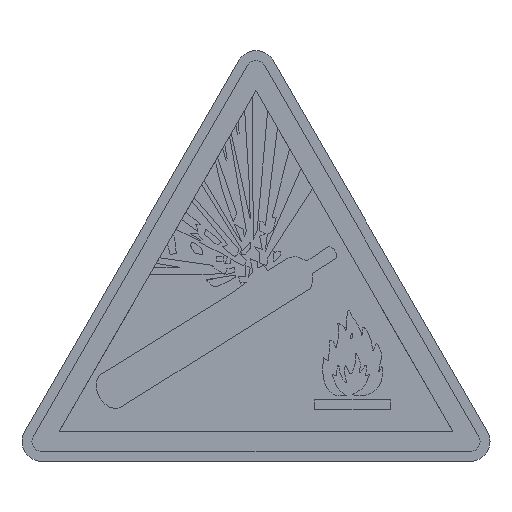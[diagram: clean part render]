
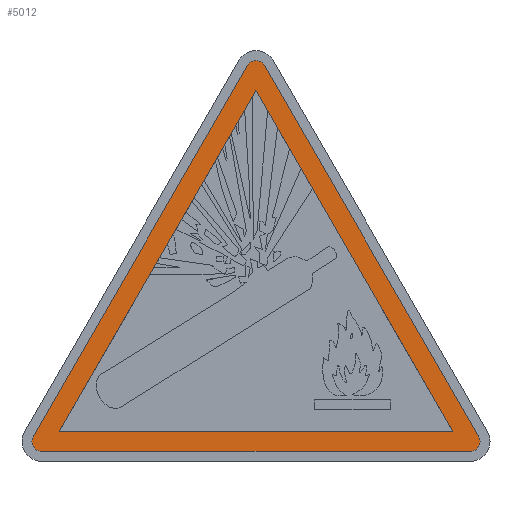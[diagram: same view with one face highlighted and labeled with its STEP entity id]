
A CAD part, top view. The second image highlights one B-rep face of the part: STEP entity #5012.
In plain terms, the highlighted planar face has unit normal (0, 0, 1).
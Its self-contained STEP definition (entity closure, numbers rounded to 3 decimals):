
#46 = CARTESIAN_POINT ( 'NONE',  ( -0.866, 39.801, 0.22 ) ) ;
#91 = ORIENTED_EDGE ( 'NONE', *, *, #3256, .T. ) ;
#130 = AXIS2_PLACEMENT_3D ( 'NONE', #7162, #7822, #3652 ) ;
#182 = LINE ( 'NONE', #7102, #7702 ) ;
#263 = CARTESIAN_POINT ( 'NONE',  ( 0., 39.301, 0.22 ) ) ;
#482 = CIRCLE ( 'NONE', #5592, 1. ) ;
#682 = DIRECTION ( 'NONE',  ( -0.5, -0.866, 0. ) ) ;
#788 = VERTEX_POINT ( 'NONE', #1228 ) ;
#811 = VECTOR ( 'NONE', #8393, 1000. ) ;
#863 = VECTOR ( 'NONE', #682, 1000. ) ;
#881 = VERTEX_POINT ( 'NONE', #2301 ) ;
#893 = ORIENTED_EDGE ( 'NONE', *, *, #5295, .T. ) ;
#907 = CARTESIAN_POINT ( 'NONE',  ( 0., 37.301, 0.22 ) ) ;
#919 = CIRCLE ( 'NONE', #5140, 1. ) ;
#1180 = EDGE_CURVE ( 'NONE', #4258, #788, #7293, .T. ) ;
#1228 = CARTESIAN_POINT ( 'NONE',  ( 0.866, 39.801, 0.22 ) ) ;
#1279 = VECTOR ( 'NONE', #1741, 1000. ) ;
#1428 = DIRECTION ( 'NONE',  ( 0., 0., 1. ) ) ;
#1551 = CARTESIAN_POINT ( 'NONE',  ( -19.804, 3., 0.22 ) ) ;
#1646 = EDGE_CURVE ( 'NONE', #6319, #7563, #3140, .T. ) ;
#1676 = DIRECTION ( 'NONE',  ( 1., 0., 0. ) ) ;
#1741 = DIRECTION ( 'NONE',  ( -0.5, 0.866, 0. ) ) ;
#1838 = AXIS2_PLACEMENT_3D ( 'NONE', #2804, #1428, #8374 ) ;
#1856 = DIRECTION ( 'NONE',  ( -0.5, 0.866, 0. ) ) ;
#1859 = CARTESIAN_POINT ( 'NONE',  ( -22.536, 2., 0.22 ) ) ;
#1999 = AXIS2_PLACEMENT_3D ( 'NONE', #6693, #6547, #1676 ) ;
#2144 = VECTOR ( 'NONE', #1856, 1000. ) ;
#2146 = EDGE_CURVE ( 'NONE', #6228, #7363, #5785, .T. ) ;
#2147 = LINE ( 'NONE', #1551, #5949 ) ;
#2148 = FACE_OUTER_BOUND ( 'NONE', #4115, .T. ) ;
#2301 = CARTESIAN_POINT ( 'NONE',  ( -21.536, 1., 0.22 ) ) ;
#2460 = CARTESIAN_POINT ( 'NONE',  ( 19.804, 3., 0.22 ) ) ;
#2470 = CARTESIAN_POINT ( 'NONE',  ( -21.536, 2., 0.22 ) ) ;
#2746 = CARTESIAN_POINT ( 'NONE',  ( 22.402, 2.5, 0.22 ) ) ;
#2804 = CARTESIAN_POINT ( 'NONE',  ( -21.536, 2., 0.22 ) ) ;
#3140 = LINE ( 'NONE', #2460, #2144 ) ;
#3216 = CARTESIAN_POINT ( 'NONE',  ( -0.866, 39.801, 0.22 ) ) ;
#3256 = EDGE_CURVE ( 'NONE', #3877, #6228, #6317, .T. ) ;
#3652 = DIRECTION ( 'NONE',  ( 1., 0., 0. ) ) ;
#3744 = ORIENTED_EDGE ( 'NONE', *, *, #4340, .T. ) ;
#3796 = CARTESIAN_POINT ( 'NONE',  ( 22.402, 2.5, 0.22 ) ) ;
#3805 = VERTEX_POINT ( 'NONE', #8688 ) ;
#3877 = VERTEX_POINT ( 'NONE', #3216 ) ;
#4007 = EDGE_CURVE ( 'NONE', #3805, #6319, #2147, .T. ) ;
#4098 = ORIENTED_EDGE ( 'NONE', *, *, #6128, .F. ) ;
#4115 = EDGE_LOOP ( 'NONE', ( #6506, #91, #7010, #8445, #3744, #893, #6854 ) ) ;
#4154 = LINE ( 'NONE', #6954, #863 ) ;
#4258 = VERTEX_POINT ( 'NONE', #2746 ) ;
#4340 = EDGE_CURVE ( 'NONE', #881, #8368, #182, .T. ) ;
#4380 = DIRECTION ( 'NONE',  ( 0., 0., 1. ) ) ;
#4997 = DIRECTION ( 'NONE',  ( 1., 0., 0. ) ) ;
#5012 = ADVANCED_FACE ( 'NONE', ( #2148, #7736 ), #5042, .T. ) ;
#5042 = PLANE ( 'NONE',  #130 ) ;
#5076 = CIRCLE ( 'NONE', #1999, 1. ) ;
#5140 = AXIS2_PLACEMENT_3D ( 'NONE', #263, #4380, #7092 ) ;
#5295 = EDGE_CURVE ( 'NONE', #8368, #4258, #5076, .T. ) ;
#5438 = ORIENTED_EDGE ( 'NONE', *, *, #1646, .F. ) ;
#5592 = AXIS2_PLACEMENT_3D ( 'NONE', #2470, #8050, #6322 ) ;
#5631 = DIRECTION ( 'NONE',  ( 1., 0., 0. ) ) ;
#5785 = CIRCLE ( 'NONE', #1838, 1. ) ;
#5949 = VECTOR ( 'NONE', #4997, 1000. ) ;
#5991 = CARTESIAN_POINT ( 'NONE',  ( 19.804, 3., 0.22 ) ) ;
#6128 = EDGE_CURVE ( 'NONE', #7563, #3805, #4154, .T. ) ;
#6228 = VERTEX_POINT ( 'NONE', #6449 ) ;
#6317 = LINE ( 'NONE', #46, #811 ) ;
#6319 = VERTEX_POINT ( 'NONE', #5991 ) ;
#6322 = DIRECTION ( 'NONE',  ( 1., 0., 0. ) ) ;
#6449 = CARTESIAN_POINT ( 'NONE',  ( -22.402, 2.5, 0.22 ) ) ;
#6506 = ORIENTED_EDGE ( 'NONE', *, *, #7522, .T. ) ;
#6547 = DIRECTION ( 'NONE',  ( 0., 0., 1. ) ) ;
#6693 = CARTESIAN_POINT ( 'NONE',  ( 21.536, 2., 0.22 ) ) ;
#6854 = ORIENTED_EDGE ( 'NONE', *, *, #1180, .T. ) ;
#6954 = CARTESIAN_POINT ( 'NONE',  ( 0., 37.301, 0.22 ) ) ;
#7010 = ORIENTED_EDGE ( 'NONE', *, *, #2146, .T. ) ;
#7092 = DIRECTION ( 'NONE',  ( 1., 0., 0. ) ) ;
#7102 = CARTESIAN_POINT ( 'NONE',  ( -21.536, 1., 0.22 ) ) ;
#7162 = CARTESIAN_POINT ( 'NONE',  ( 0., 39.301, 0.22 ) ) ;
#7189 = EDGE_CURVE ( 'NONE', #7363, #881, #482, .T. ) ;
#7293 = LINE ( 'NONE', #3796, #1279 ) ;
#7363 = VERTEX_POINT ( 'NONE', #1859 ) ;
#7522 = EDGE_CURVE ( 'NONE', #788, #3877, #919, .T. ) ;
#7563 = VERTEX_POINT ( 'NONE', #907 ) ;
#7605 = CARTESIAN_POINT ( 'NONE',  ( 21.536, 1., 0.22 ) ) ;
#7702 = VECTOR ( 'NONE', #5631, 1000. ) ;
#7736 = FACE_BOUND ( 'NONE', #7881, .T. ) ;
#7822 = DIRECTION ( 'NONE',  ( 0., 0., 1. ) ) ;
#7881 = EDGE_LOOP ( 'NONE', ( #8265, #4098, #5438 ) ) ;
#8050 = DIRECTION ( 'NONE',  ( 0., 0., 1. ) ) ;
#8265 = ORIENTED_EDGE ( 'NONE', *, *, #4007, .F. ) ;
#8368 = VERTEX_POINT ( 'NONE', #7605 ) ;
#8374 = DIRECTION ( 'NONE',  ( 1., 0., 0. ) ) ;
#8393 = DIRECTION ( 'NONE',  ( -0.5, -0.866, 0. ) ) ;
#8445 = ORIENTED_EDGE ( 'NONE', *, *, #7189, .T. ) ;
#8688 = CARTESIAN_POINT ( 'NONE',  ( -19.804, 3., 0.22 ) ) ;
